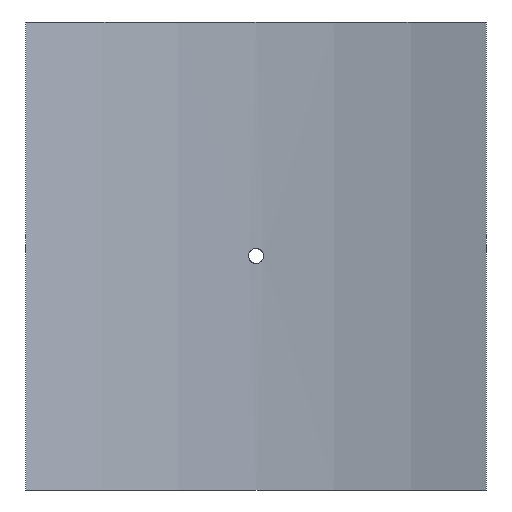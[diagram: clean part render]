
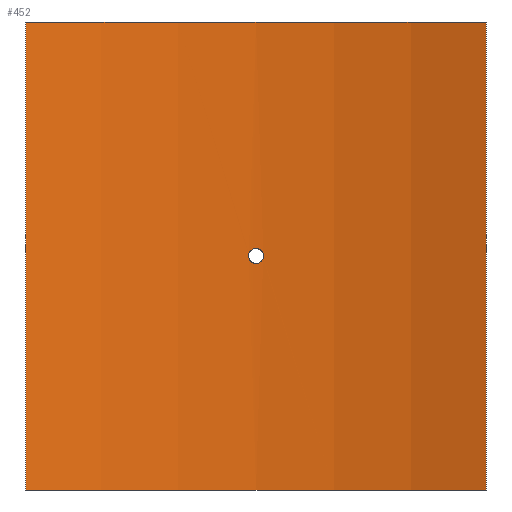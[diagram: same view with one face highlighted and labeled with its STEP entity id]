
A CAD part, front view. The second image highlights one B-rep face of the part: STEP entity #452.
In plain terms, the highlighted cylindrical face has radius 450 mm (diameter 900 mm), a partial arc.
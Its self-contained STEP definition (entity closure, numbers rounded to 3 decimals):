
#19=B_SPLINE_CURVE_WITH_KNOTS('',3,(#788,#789,#790,#791,#792,#793,#794,
#795,#796,#797,#798,#799,#800,#801,#802,#803,#804,#805,#806,#807,#808,#809,
#810,#811,#812,#813,#814,#815,#816,#817,#818,#819,#820,#821),
 .UNSPECIFIED.,.T.,.F.,(4,2,2,2,2,2,2,2,2,2,2,2,2,2,2,2,4),(0.,0.181,
0.362,0.542,0.723,0.904,
1.085,1.266,1.446,1.627,1.808,
1.989,2.17,2.351,2.531,2.712,
2.893),.UNSPECIFIED.);
#43=LINE('',#1065,#62);
#44=LINE('',#1068,#63);
#62=VECTOR('',#661,10.);
#63=VECTOR('',#664,10.);
#76=CYLINDRICAL_SURFACE('',#530,450.);
#88=FACE_BOUND('',#167,.T.);
#127=FACE_OUTER_BOUND('',#166,.T.);
#166=EDGE_LOOP('',(#405,#406,#407,#408));
#167=EDGE_LOOP('',(#409));
#201=CIRCLE('',#529,450.);
#202=CIRCLE('',#531,450.);
#219=VERTEX_POINT('',#786);
#242=VERTEX_POINT('',#1058);
#243=VERTEX_POINT('',#1060);
#244=VERTEX_POINT('',#1064);
#245=VERTEX_POINT('',#1066);
#267=EDGE_CURVE('',#219,#219,#19,.T.);
#299=EDGE_CURVE('',#242,#243,#201,.T.);
#301=EDGE_CURVE('',#244,#242,#43,.T.);
#302=EDGE_CURVE('',#245,#244,#202,.T.);
#303=EDGE_CURVE('',#245,#243,#44,.T.);
#405=ORIENTED_EDGE('',*,*,#301,.F.);
#406=ORIENTED_EDGE('',*,*,#302,.F.);
#407=ORIENTED_EDGE('',*,*,#303,.T.);
#408=ORIENTED_EDGE('',*,*,#299,.F.);
#409=ORIENTED_EDGE('',*,*,#267,.T.);
#452=ADVANCED_FACE('',(#127,#88),#76,.F.);
#529=AXIS2_PLACEMENT_3D('',#1061,#656,#657);
#530=AXIS2_PLACEMENT_3D('',#1063,#659,#660);
#531=AXIS2_PLACEMENT_3D('',#1067,#662,#663);
#656=DIRECTION('center_axis',(0.,0.,1.));
#657=DIRECTION('ref_axis',(0.328,0.945,0.));
#659=DIRECTION('center_axis',(0.,0.,1.));
#660=DIRECTION('ref_axis',(0.328,0.945,0.));
#661=DIRECTION('',(0.,0.,-1.));
#662=DIRECTION('center_axis',(0.,0.,-1.));
#663=DIRECTION('ref_axis',(0.328,0.945,0.));
#664=DIRECTION('',(0.,0.,-1.));
#786=CARTESIAN_POINT('',(4.8,449.974,0.));
#788=CARTESIAN_POINT('Ctrl Pts',(4.8,449.974,0.));
#789=CARTESIAN_POINT('Ctrl Pts',(4.8,449.974,-0.603));
#790=CARTESIAN_POINT('Ctrl Pts',(4.68,449.976,-1.246));
#791=CARTESIAN_POINT('Ctrl Pts',(4.19,449.981,-2.428));
#792=CARTESIAN_POINT('Ctrl Pts',(3.82,449.984,-2.968));
#793=CARTESIAN_POINT('Ctrl Pts',(2.968,449.99,-3.82));
#794=CARTESIAN_POINT('Ctrl Pts',(2.428,449.994,-4.19));
#795=CARTESIAN_POINT('Ctrl Pts',(1.246,449.999,-4.68));
#796=CARTESIAN_POINT('Ctrl Pts',(0.603,450.,-4.8));
#797=CARTESIAN_POINT('Ctrl Pts',(-0.603,450.,-4.8));
#798=CARTESIAN_POINT('Ctrl Pts',(-1.246,449.999,-4.68));
#799=CARTESIAN_POINT('Ctrl Pts',(-2.428,449.994,-4.19));
#800=CARTESIAN_POINT('Ctrl Pts',(-2.968,449.99,-3.82));
#801=CARTESIAN_POINT('Ctrl Pts',(-3.82,449.984,-2.968));
#802=CARTESIAN_POINT('Ctrl Pts',(-4.19,449.981,-2.428));
#803=CARTESIAN_POINT('Ctrl Pts',(-4.68,449.976,-1.246));
#804=CARTESIAN_POINT('Ctrl Pts',(-4.8,449.974,-0.603));
#805=CARTESIAN_POINT('Ctrl Pts',(-4.8,449.974,0.603));
#806=CARTESIAN_POINT('Ctrl Pts',(-4.68,449.976,1.246));
#807=CARTESIAN_POINT('Ctrl Pts',(-4.19,449.981,2.428));
#808=CARTESIAN_POINT('Ctrl Pts',(-3.82,449.984,2.968));
#809=CARTESIAN_POINT('Ctrl Pts',(-2.968,449.99,3.82));
#810=CARTESIAN_POINT('Ctrl Pts',(-2.428,449.994,4.19));
#811=CARTESIAN_POINT('Ctrl Pts',(-1.246,449.999,4.68));
#812=CARTESIAN_POINT('Ctrl Pts',(-0.603,450.,4.8));
#813=CARTESIAN_POINT('Ctrl Pts',(0.603,450.,4.8));
#814=CARTESIAN_POINT('Ctrl Pts',(1.246,449.999,4.68));
#815=CARTESIAN_POINT('Ctrl Pts',(2.428,449.994,4.19));
#816=CARTESIAN_POINT('Ctrl Pts',(2.968,449.99,3.82));
#817=CARTESIAN_POINT('Ctrl Pts',(3.82,449.984,2.968));
#818=CARTESIAN_POINT('Ctrl Pts',(4.19,449.981,2.428));
#819=CARTESIAN_POINT('Ctrl Pts',(4.68,449.976,1.246));
#820=CARTESIAN_POINT('Ctrl Pts',(4.8,449.974,0.603));
#821=CARTESIAN_POINT('Ctrl Pts',(4.8,449.974,0.));
#1058=CARTESIAN_POINT('',(147.5,425.14,-150.));
#1060=CARTESIAN_POINT('',(-147.5,425.14,-150.));
#1061=CARTESIAN_POINT('Origin',(0.,0.,
-150.));
#1063=CARTESIAN_POINT('Origin',(0.,0.,
0.));
#1064=CARTESIAN_POINT('',(147.5,425.14,150.));
#1065=CARTESIAN_POINT('',(147.5,425.14,0.));
#1066=CARTESIAN_POINT('',(-147.5,425.14,150.));
#1067=CARTESIAN_POINT('Origin',(0.,0.,
150.));
#1068=CARTESIAN_POINT('',(-147.5,425.14,0.));
